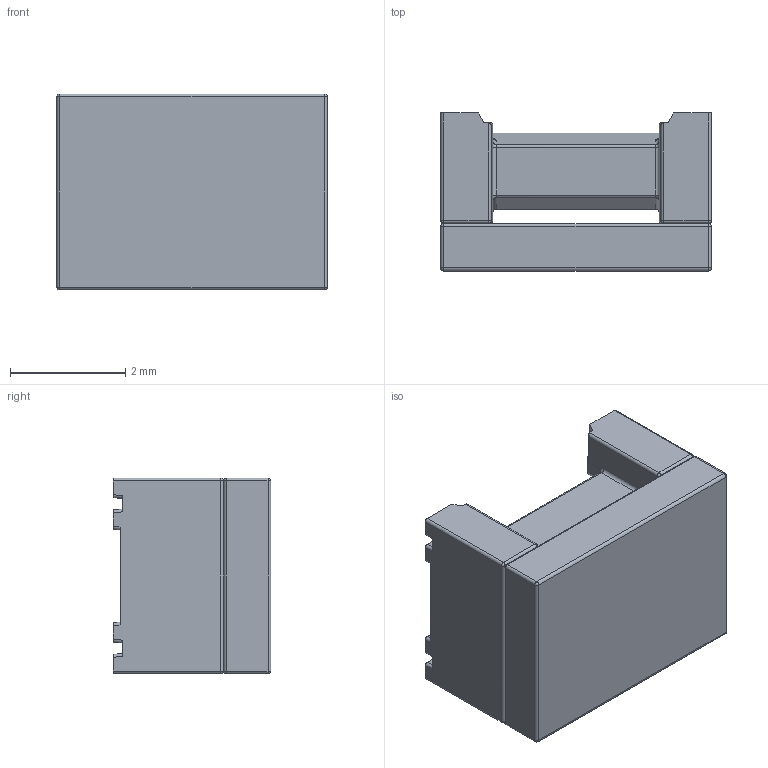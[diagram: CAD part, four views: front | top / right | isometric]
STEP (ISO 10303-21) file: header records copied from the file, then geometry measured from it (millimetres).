
FILE_DESCRIPTION (( 'STEP AP203' ), '1' );
FILE_NAME ('TC1000.STEP', '2021-06-16T15:29:26', ( '' ), ( '' ), 'SwSTEP 2.0', 'SolidWorks 2019', '' );
FILE_SCHEMA (( 'CONFIG_CONTROL_DESIGN' ));
Length unit declared in the file: inch
Products named in the file (3): 032-01821.005; TC1000; 032-01821.002
Assembly tree (2 placements, depth 2):
  TC1000
    032-01821.005
    032-01821.002
Bounding box: 4.7 x 2.74 x 3.4 mm (x, y, z)
Volume: 31.9 mm3; surface area: 101.2 mm2
Topology: 2 solids, 2 shells, 182 faces, 462 edges, 272 vertices
Faces by surface type: cylinder 74, plane 72, sphere 16, bspline 12, torus 8
Entity records: 5865 total; most frequent: CARTESIAN_POINT 1509, ORIENTED_EDGE 900, DIRECTION 804, EDGE_CURVE 450, VERTEX_POINT 272, AXIS2_PLACEMENT_3D 271, LINE 262, VECTOR 262
